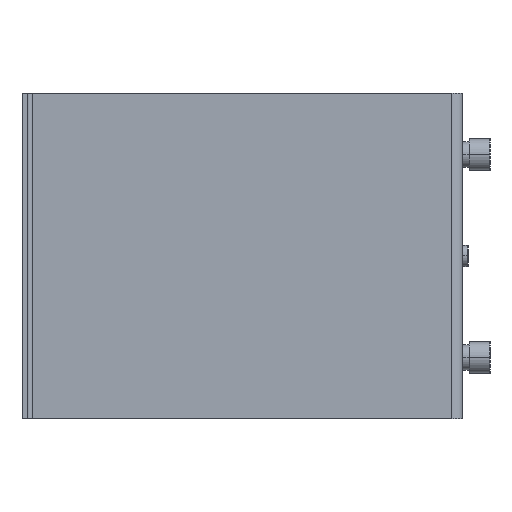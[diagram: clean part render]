
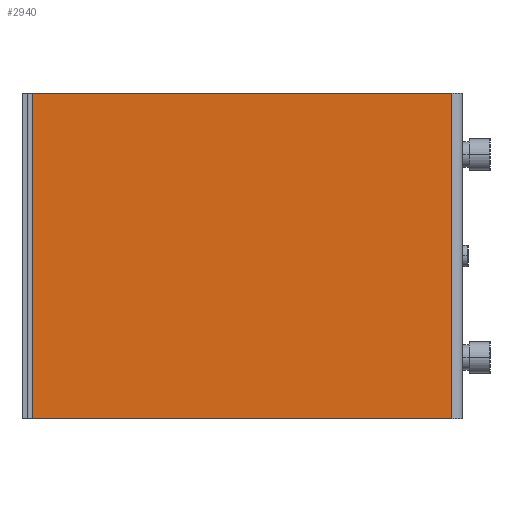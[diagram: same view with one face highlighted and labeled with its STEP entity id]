
A CAD part, left-side view. The second image highlights one B-rep face of the part: STEP entity #2940.
In plain terms, the highlighted planar face has unit normal (-1, 0, 0).
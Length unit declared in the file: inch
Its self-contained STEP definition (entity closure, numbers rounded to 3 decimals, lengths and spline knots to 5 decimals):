
#430=DIRECTION('',(0.,1.,0.));
#431=VECTOR('',#430,6.715);
#432=CARTESIAN_POINT('',(-17.59,0.09,5.219));
#433=LINE('',#432,#431);
#624=DIRECTION('',(0.,0.,-1.));
#625=VECTOR('',#624,5.219);
#626=CARTESIAN_POINT('',(-17.59,0.09,5.219));
#627=LINE('',#626,#625);
#646=DIRECTION('',(0.,1.,0.));
#647=VECTOR('',#646,6.715);
#648=CARTESIAN_POINT('',(-17.59,0.09,0.));
#649=LINE('',#648,#647);
#663=DIRECTION('',(0.,0.,-1.));
#664=VECTOR('',#663,5.219);
#665=CARTESIAN_POINT('',(-17.59,6.805,5.219));
#666=LINE('',#665,#664);
#1850=CARTESIAN_POINT('',(-17.59,0.09,5.219));
#1851=CARTESIAN_POINT('',(-17.59,0.09,0.));
#1852=VERTEX_POINT('',#1850);
#1853=VERTEX_POINT('',#1851);
#1866=CARTESIAN_POINT('',(-17.59,6.805,5.219));
#1867=VERTEX_POINT('',#1866);
#1868=CARTESIAN_POINT('',(-17.59,6.805,0.));
#1869=VERTEX_POINT('',#1868);
#2927=CARTESIAN_POINT('',(-17.59,0.,5.219));
#2928=DIRECTION('',(1.,0.,0.));
#2929=DIRECTION('',(0.,1.,0.));
#2930=AXIS2_PLACEMENT_3D('',#2927,#2928,#2929);
#2931=PLANE('',#2930);
#2932=ORIENTED_EDGE('',*,*,#2739,.F.);
#2933=ORIENTED_EDGE('',*,*,#2919,.T.);
#2935=ORIENTED_EDGE('',*,*,#2934,.T.);
#2937=ORIENTED_EDGE('',*,*,#2936,.F.);
#2938=EDGE_LOOP('',(#2932,#2933,#2935,#2937));
#2939=FACE_OUTER_BOUND('',#2938,.F.);
#2940=ADVANCED_FACE('',(#2939),#2931,.F.);
#2739=EDGE_CURVE('',#1852,#1867,#433,.T.);
#2919=EDGE_CURVE('',#1852,#1853,#627,.T.);
#2934=EDGE_CURVE('',#1853,#1869,#649,.T.);
#2936=EDGE_CURVE('',#1867,#1869,#666,.T.);
